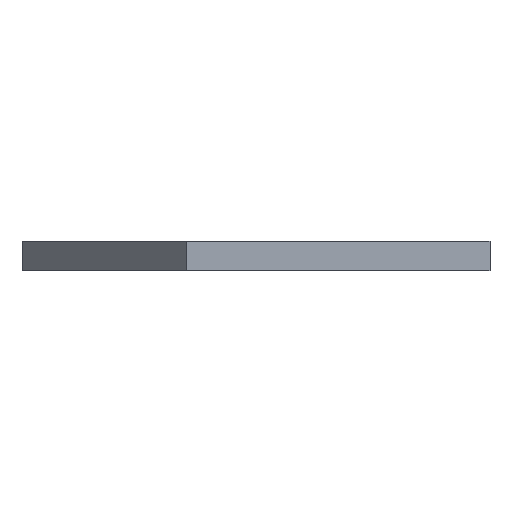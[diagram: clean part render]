
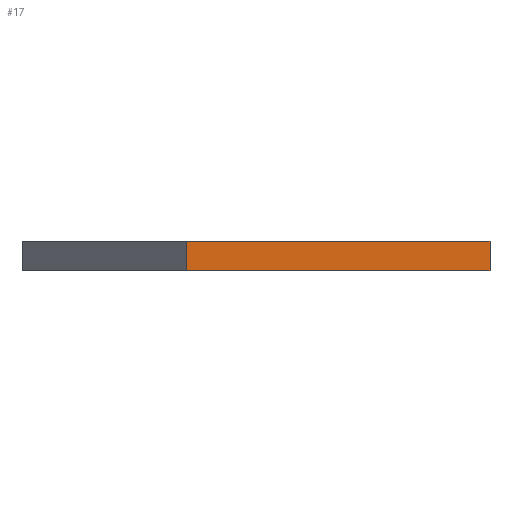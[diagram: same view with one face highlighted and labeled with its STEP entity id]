
A CAD part, front view. The second image highlights one B-rep face of the part: STEP entity #17.
In plain terms, the highlighted planar face has unit normal (0, -1, 0).
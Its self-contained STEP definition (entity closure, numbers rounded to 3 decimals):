
#17 = ADVANCED_FACE('',(#18),#32,.F.);
#18 = FACE_BOUND('',#19,.T.);
#19 = EDGE_LOOP('',(#20,#55,#83,#111));
#20 = ORIENTED_EDGE('',*,*,#21,.T.);
#21 = EDGE_CURVE('',#22,#24,#26,.T.);
#22 = VERTEX_POINT('',#23);
#23 = CARTESIAN_POINT('',(180.,-180.,0.));
#24 = VERTEX_POINT('',#25);
#25 = CARTESIAN_POINT('',(180.,-180.,35.));
#26 = SURFACE_CURVE('',#27,(#31,#43),.PCURVE_S1.);
#27 = LINE('',#28,#29);
#28 = CARTESIAN_POINT('',(180.,-180.,0.));
#29 = VECTOR('',#30,1.);
#30 = DIRECTION('',(-0.,-0.,1.));
#31 = PCURVE('',#32,#37);
#32 = PLANE('',#33);
#33 = AXIS2_PLACEMENT_3D('',#34,#35,#36);
#34 = CARTESIAN_POINT('',(180.,-180.,0.));
#35 = DIRECTION('',(-0.,1.,-0.));
#36 = DIRECTION('',(1.,0.,0.));
#37 = DEFINITIONAL_REPRESENTATION('',(#38),#42);
#38 = LINE('',#39,#40);
#39 = CARTESIAN_POINT('',(-0.,-0.));
#40 = VECTOR('',#41,1.);
#41 = DIRECTION('',(-0.,-1.));
#42 = ( GEOMETRIC_REPRESENTATION_CONTEXT(2) 
PARAMETRIC_REPRESENTATION_CONTEXT() REPRESENTATION_CONTEXT('2D SPACE',''
  ) );
#43 = PCURVE('',#44,#49);
#44 = PLANE('',#45);
#45 = AXIS2_PLACEMENT_3D('',#46,#47,#48);
#46 = CARTESIAN_POINT('',(180.,180.,0.));
#47 = DIRECTION('',(-1.,-0.,-0.));
#48 = DIRECTION('',(0.,1.,0.));
#49 = DEFINITIONAL_REPRESENTATION('',(#50),#54);
#50 = LINE('',#51,#52);
#51 = CARTESIAN_POINT('',(-360.,0.));
#52 = VECTOR('',#53,1.);
#53 = DIRECTION('',(-0.,-1.));
#54 = ( GEOMETRIC_REPRESENTATION_CONTEXT(2) 
PARAMETRIC_REPRESENTATION_CONTEXT() REPRESENTATION_CONTEXT('2D SPACE',''
  ) );
#55 = ORIENTED_EDGE('',*,*,#56,.T.);
#56 = EDGE_CURVE('',#24,#57,#59,.T.);
#57 = VERTEX_POINT('',#58);
#58 = CARTESIAN_POINT('',(-180.,-180.,35.));
#59 = SURFACE_CURVE('',#60,(#64,#71),.PCURVE_S1.);
#60 = LINE('',#61,#62);
#61 = CARTESIAN_POINT('',(180.,-180.,35.));
#62 = VECTOR('',#63,1.);
#63 = DIRECTION('',(-1.,-0.,-0.));
#64 = PCURVE('',#32,#65);
#65 = DEFINITIONAL_REPRESENTATION('',(#66),#70);
#66 = LINE('',#67,#68);
#67 = CARTESIAN_POINT('',(-0.,-35.));
#68 = VECTOR('',#69,1.);
#69 = DIRECTION('',(-1.,0.));
#70 = ( GEOMETRIC_REPRESENTATION_CONTEXT(2) 
PARAMETRIC_REPRESENTATION_CONTEXT() REPRESENTATION_CONTEXT('2D SPACE',''
  ) );
#71 = PCURVE('',#72,#77);
#72 = PLANE('',#73);
#73 = AXIS2_PLACEMENT_3D('',#74,#75,#76);
#74 = CARTESIAN_POINT('',(-89.825,61.111,35.));
#75 = DIRECTION('',(-0.,-0.,1.));
#76 = DIRECTION('',(1.,0.,0.));
#77 = DEFINITIONAL_REPRESENTATION('',(#78),#82);
#78 = LINE('',#79,#80);
#79 = CARTESIAN_POINT('',(269.825,-241.111));
#80 = VECTOR('',#81,1.);
#81 = DIRECTION('',(-1.,0.));
#82 = ( GEOMETRIC_REPRESENTATION_CONTEXT(2) 
PARAMETRIC_REPRESENTATION_CONTEXT() REPRESENTATION_CONTEXT('2D SPACE',''
  ) );
#83 = ORIENTED_EDGE('',*,*,#84,.F.);
#84 = EDGE_CURVE('',#85,#57,#87,.T.);
#85 = VERTEX_POINT('',#86);
#86 = CARTESIAN_POINT('',(-180.,-180.,0.));
#87 = SURFACE_CURVE('',#88,(#92,#99),.PCURVE_S1.);
#88 = LINE('',#89,#90);
#89 = CARTESIAN_POINT('',(-180.,-180.,0.));
#90 = VECTOR('',#91,1.);
#91 = DIRECTION('',(-0.,-0.,1.));
#92 = PCURVE('',#32,#93);
#93 = DEFINITIONAL_REPRESENTATION('',(#94),#98);
#94 = LINE('',#95,#96);
#95 = CARTESIAN_POINT('',(-360.,0.));
#96 = VECTOR('',#97,1.);
#97 = DIRECTION('',(-0.,-1.));
#98 = ( GEOMETRIC_REPRESENTATION_CONTEXT(2) 
PARAMETRIC_REPRESENTATION_CONTEXT() REPRESENTATION_CONTEXT('2D SPACE',''
  ) );
#99 = PCURVE('',#100,#105);
#100 = PLANE('',#101);
#101 = AXIS2_PLACEMENT_3D('',#102,#103,#104);
#102 = CARTESIAN_POINT('',(-180.,-180.,0.));
#103 = DIRECTION('',(0.763,0.647,-0.));
#104 = DIRECTION('',(0.647,-0.763,0.));
#105 = DEFINITIONAL_REPRESENTATION('',(#106),#110);
#106 = LINE('',#107,#108);
#107 = CARTESIAN_POINT('',(-0.,-0.));
#108 = VECTOR('',#109,1.);
#109 = DIRECTION('',(-0.,-1.));
#110 = ( GEOMETRIC_REPRESENTATION_CONTEXT(2) 
PARAMETRIC_REPRESENTATION_CONTEXT() REPRESENTATION_CONTEXT('2D SPACE',''
  ) );
#111 = ORIENTED_EDGE('',*,*,#112,.F.);
#112 = EDGE_CURVE('',#22,#85,#113,.T.);
#113 = SURFACE_CURVE('',#114,(#118,#125),.PCURVE_S1.);
#114 = LINE('',#115,#116);
#115 = CARTESIAN_POINT('',(180.,-180.,0.));
#116 = VECTOR('',#117,1.);
#117 = DIRECTION('',(-1.,-0.,-0.));
#118 = PCURVE('',#32,#119);
#119 = DEFINITIONAL_REPRESENTATION('',(#120),#124);
#120 = LINE('',#121,#122);
#121 = CARTESIAN_POINT('',(-0.,-0.));
#122 = VECTOR('',#123,1.);
#123 = DIRECTION('',(-1.,0.));
#124 = ( GEOMETRIC_REPRESENTATION_CONTEXT(2) 
PARAMETRIC_REPRESENTATION_CONTEXT() REPRESENTATION_CONTEXT('2D SPACE',''
  ) );
#125 = PCURVE('',#126,#131);
#126 = PLANE('',#127);
#127 = AXIS2_PLACEMENT_3D('',#128,#129,#130);
#128 = CARTESIAN_POINT('',(-89.825,61.111,0.));
#129 = DIRECTION('',(-0.,-0.,1.));
#130 = DIRECTION('',(1.,0.,0.));
#131 = DEFINITIONAL_REPRESENTATION('',(#132),#136);
#132 = LINE('',#133,#134);
#133 = CARTESIAN_POINT('',(269.825,-241.111));
#134 = VECTOR('',#135,1.);
#135 = DIRECTION('',(-1.,0.));
#136 = ( GEOMETRIC_REPRESENTATION_CONTEXT(2) 
PARAMETRIC_REPRESENTATION_CONTEXT() REPRESENTATION_CONTEXT('2D SPACE',''
  ) );
